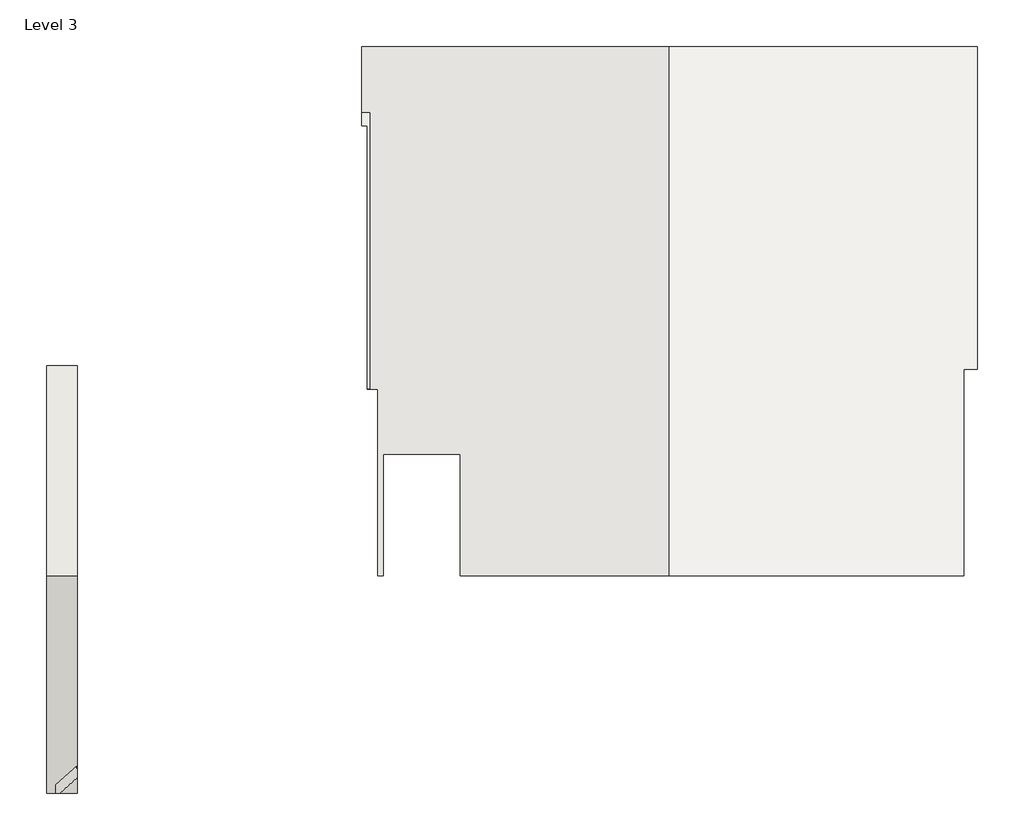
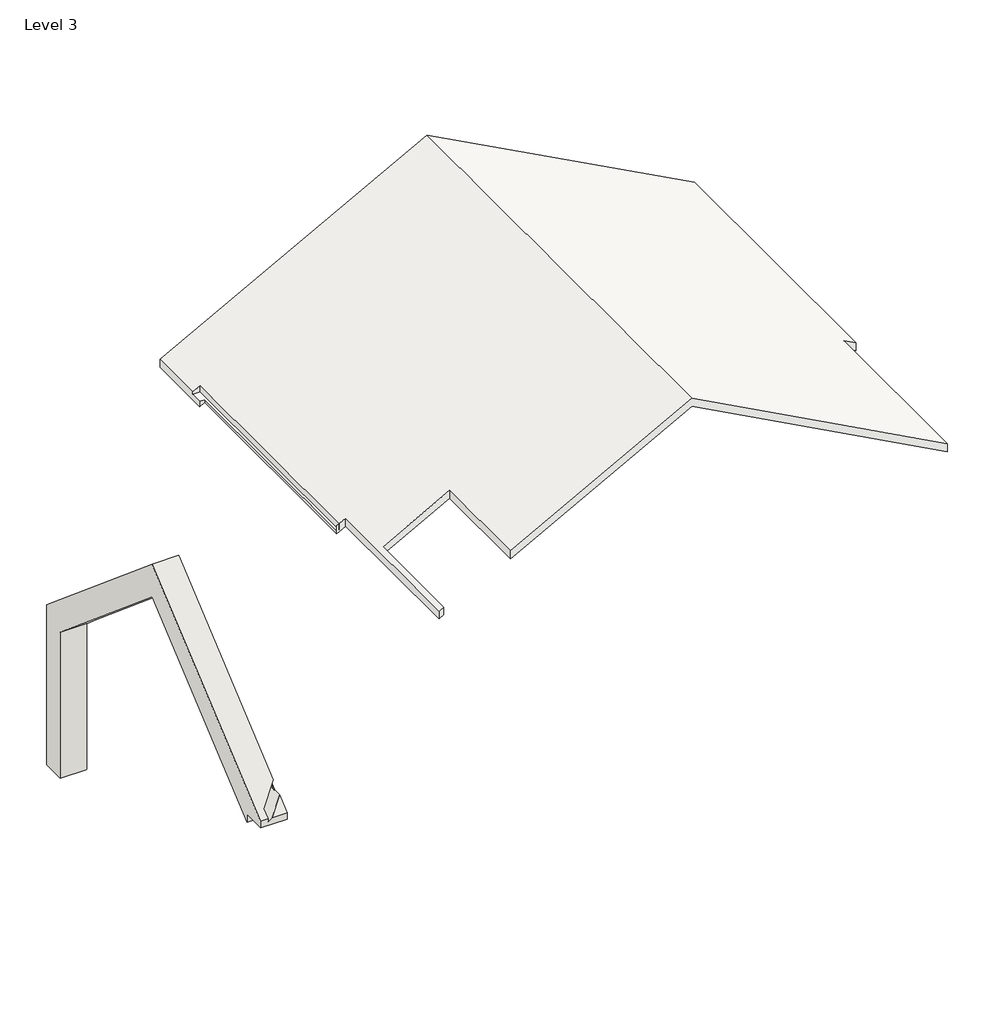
# One storey: 1 roof, 1 wall.
"""IFC4 building model written with IfcOpenShell, lengths in millimetres."""

from ifc_helpers import new_model, si_unit, origin, place, context, project, spatial, faceted_brep, element, save

model = new_model("IFC4")

# Units and contexts
model_context = context("Model", 3, world=origin())
ifc_project = project(units=[si_unit("LENGTHUNIT", "METRE", prefix="MILLI")], contexts=[model_context])

# Site, building, storey
site = spatial("IfcSite", under=ifc_project)
building = spatial("IfcBuilding", under=site)
storey = spatial("IfcBuildingStorey", under=building, Name="Level 3", Elevation=7924.8)

# Roof
placement = place(None, origin())
element("IfcRoof", 1, ObjectType="Planitar Roof - 5\"", at=placement, inside=storey, context=model_context, shape_type="Brep", body=[
    faceted_brep([(11783.2049773, 13479.7909405, 5742.6488962), (16383.7799773, 13479.7909405, 8214.6270127), (16383.7799773, 5574.0409405, 8214.6270127), (13256.4049773, 5574.0409405, 6534.2278099), (13256.4049773, 7390.1409405, 6534.2278099), (12106.4979371, 7390.1409405, 5916.3604696), (12106.4979371, 5574.0409405, 5916.3604696), (12024.5049773, 5574.0409405, 5872.3040631), (12024.5049773, 8360.2131956, 5872.3040631), (11872.1049773, 8360.2131956, 5790.4165892), (11872.1049773, 12298.6909405, 5790.4165892), (11783.2049773, 12298.6909405, 5742.6488962), (20984.3549773, 13479.7909405, 5742.6488962), (20984.3549773, 8660.1409405, 5742.6488962), (20781.1549773, 8660.1409405, 5851.8321946), (20781.1549773, 5574.0409405, 5851.8321946), (16383.7799773, 5574.0409405, 8358.799263), (16383.7799773, 13479.7909405, 8358.799263), (11783.2049773, 13479.7909405, 5886.8211465), (11783.2049773, 12501.8909405, 5886.8211465), (11910.2049773, 12501.8909405, 5955.060708), (11910.2049773, 8361.6909405, 5955.060708), (11872.1049773, 8361.6909405, 5934.5888395), (11872.1049773, 8360.2131956, 5934.5888395), (12024.5049773, 8360.2131956, 6016.4763134), (12024.5049773, 5574.0409405, 6016.4763134), (12106.4979371, 5574.0409405, 6060.5327199), (12106.4979371, 7390.1409405, 6060.5327199), (13256.4049773, 7390.1409405, 6678.4000602), (13256.4049773, 5574.0409405, 6678.4000602), (20781.1549773, 5574.0409405, 5996.0044449), (20781.1549773, 8660.1409405, 5996.0044449), (20984.3549773, 8660.1409405, 5886.8211465), (20984.3549773, 13479.7909405, 5886.8211465), (11783.2049773, 12298.6909405, 5842.0), (11783.2049773, 12501.8909405, 5842.0), (11910.2049773, 8361.6909405, 5842.0), (11910.2049773, 12501.8909405, 5842.0), (11872.1049773, 12298.6909405, 5842.0), (11872.1049773, 8361.6909405, 5842.0)], [[[0, 1, 2, 3, 4, 5, 6, 7, 8, 9, 10, 11]], [[2, 1, 12, 13, 14, 15]], [[16, 17, 18, 19, 20, 21, 22, 23, 24, 25, 26, 27, 28, 29]], [[17, 16, 30, 31, 32, 33]], [[18, 0, 11, 34, 35, 19]], [[12, 33, 32, 13]], [[1, 0, 18, 17, 33, 12]], [[2, 15, 30, 16, 29, 3]], [[25, 7, 6, 26]], [[36, 37, 35, 34, 38, 39]], [[35, 37, 20, 19]], [[36, 39, 22, 21]], [[37, 36, 21, 20]], [[8, 7, 25, 24]], [[11, 10, 38, 34]], [[31, 14, 13, 32]], [[14, 31, 30, 15]], [[8, 24, 23, 9]], [[9, 23, 22, 39, 38, 10]], [[4, 28, 27, 5]], [[5, 27, 26, 6]], [[28, 4, 3, 29]]]),
])

# Wall
element("IfcWall", 2, ObjectType="Planitar - Generic 1' - 6\"", at=placement, inside=storey, context=model_context, shape_type="Brep", body=[
    faceted_brep([(7078.0871773, 8713.1282405, 5961.7278382), (7078.0871773, 8713.1282405, 3048.0), (7078.0871773, 8306.7282405, 3048.0), (7078.0871773, 8306.7282405, 5703.4643997), (7078.0871773, 5565.4864039, 8015.9316754), (7078.0871773, 2735.5909405, 5628.6776341), (7078.0871773, 2735.5909405, 5770.6137562), (7078.0871773, 2329.1909405, 5770.6137562), (7078.0871773, 2329.1909405, 5887.2131967), (7078.0871773, 5565.4864039, 8607.3658295), (7535.2871773, 8713.1282405, 3048.0), (7535.2871773, 8713.1282405, 5842.0), (7535.2871773, 8713.1282405, 5961.7278382), (7535.2871773, 5565.4864039, 8607.3658295), (7535.2871773, 2743.2598347, 6235.2440257), (7535.2871773, 2895.2359175, 6235.2440257), (7535.2871773, 2703.3811377, 6077.7626634), (7535.2871773, 2555.8967314, 6077.762657), (7535.2871773, 2329.1909405, 5887.2131967), (7535.2871773, 2329.1909405, 5770.6137562), (7535.2871773, 2735.5909405, 5770.6137562), (7535.2871773, 2735.5909405, 5628.6776341), (7535.2871773, 5565.4864039, 8015.9316754), (7535.2871773, 8069.5909405, 5903.5095904), (7535.2871773, 8234.6909405, 5764.2339008), (7535.2871773, 8306.7282405, 5703.4643997), (7535.2871773, 8306.7282405, 3048.0), (7528.7049773, 8713.1282405, 3048.0), (7528.7049773, 8306.7282405, 3048.0), (7528.7049773, 8306.7282405, 5703.4643997), (7528.7049773, 5565.4864039, 8015.9316754), (7528.7049773, 2735.5909405, 5628.6776341), (7205.0871773, 2980.9398432, 5835.65), (7412.2940606, 3161.0409405, 5987.5803727), (7205.0871773, 3161.0409405, 5987.5803727), (7275.4105043, 2329.1909405, 5887.2131967), (7205.0871773, 2329.1909405, 5835.65), (7205.0871773, 2329.1909405, 5887.2131967), (7205.0871773, 2455.2068468, 5993.1313686), (7528.7049773, 2697.5014331, 6072.9363883), (7528.7049773, 3161.0409405, 6072.9363883), (7528.7049773, 3161.0409405, 6230.4177569), (7528.7049773, 2889.3562078, 6230.4177569), (7205.0871773, 3161.0409405, 5993.1313686)], [[[0, 1, 2, 3, 4, 5, 6, 7, 8, 9]], [[10, 11, 12, 13, 14, 15, 16, 17, 18, 19, 20, 21, 22, 23, 24, 25, 26]], [[1, 0, 12, 11, 10, 27]], [[2, 1, 27, 10, 26, 28]], [[3, 2, 28, 26, 25, 29]], [[5, 4, 30, 22, 21, 31], [32, 33, 34]], [[6, 5, 31, 21, 20]], [[7, 6, 20, 19]], [[8, 7, 19, 18, 35, 36, 37]], [[9, 8, 37, 38, 14, 13]], [[18, 17, 35]], [[0, 9, 13, 12]], [[4, 3, 29, 25, 24, 23, 22, 30]], [[39, 40, 33, 32, 36, 35, 17, 16]], [[41, 42, 15, 14, 38, 43]], [[43, 38, 37, 36, 32, 34]], [[40, 39, 42, 41]], [[42, 39, 16, 15]], [[41, 43, 34, 33, 40]]]),
])

save(model, "model.ifc")
